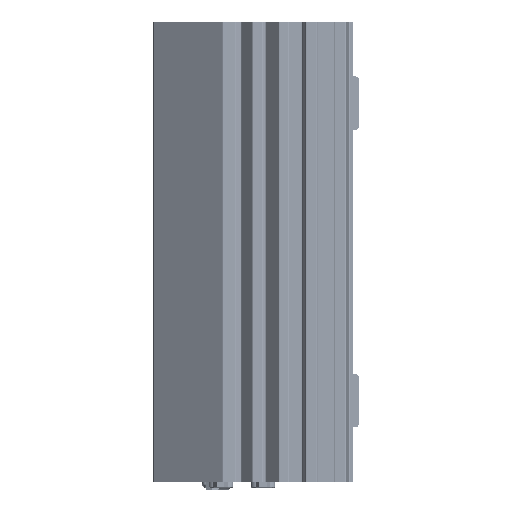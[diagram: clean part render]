
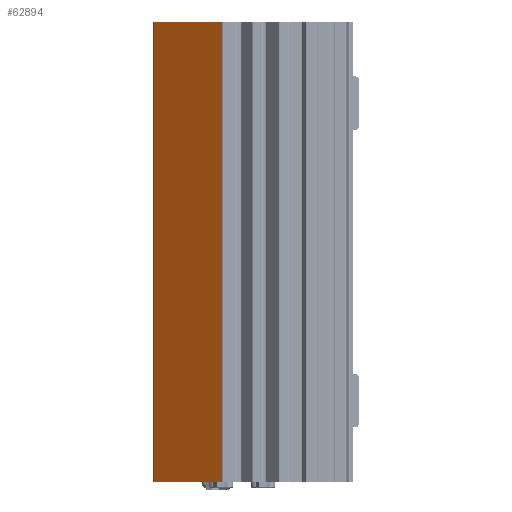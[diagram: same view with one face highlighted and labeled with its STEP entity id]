
A CAD part, left-side view. The second image highlights one B-rep face of the part: STEP entity #62894.
In plain terms, the highlighted planar face has unit normal (-0.819, 0.574, 0).
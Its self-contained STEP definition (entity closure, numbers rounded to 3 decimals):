
#1880 = VERTEX_POINT ( 'NONE', #269045 ) ;
#6868 = CARTESIAN_POINT ( 'NONE',  ( -122.022, 47.53, 86.5 ) ) ;
#7000 = PLANE ( 'NONE',  #371554 ) ;
#8944 = VECTOR ( 'NONE', #57930, 1000. ) ;
#11834 = VERTEX_POINT ( 'NONE', #95372 ) ;
#24402 = EDGE_CURVE ( 'NONE', #11834, #1880, #247808, .T. ) ;
#57930 = DIRECTION ( 'NONE',  ( 0., 0., -1. ) ) ;
#62894 = ADVANCED_FACE ( 'NONE', ( #89593 ), #7000, .F. ) ;
#65105 = VECTOR ( 'NONE', #94759, 1000. ) ;
#65387 = EDGE_CURVE ( 'NONE', #211647, #128582, #214474, .T. ) ;
#72333 = CARTESIAN_POINT ( 'NONE',  ( -102.947, 74.772, -86.5 ) ) ;
#89442 = DIRECTION ( 'NONE',  ( -0.574, -0.819, 0. ) ) ;
#89593 = FACE_OUTER_BOUND ( 'NONE', #208596, .T. ) ;
#90912 = VECTOR ( 'NONE', #262417, 1000. ) ;
#94759 = DIRECTION ( 'NONE',  ( 0., 0., 1. ) ) ;
#95372 = CARTESIAN_POINT ( 'NONE',  ( -102.947, 74.772, 86.5 ) ) ;
#111147 = CARTESIAN_POINT ( 'NONE',  ( -122.022, 47.53, -86.5 ) ) ;
#125033 = ORIENTED_EDGE ( 'NONE', *, *, #132657, .T. ) ;
#128582 = VERTEX_POINT ( 'NONE', #175445 ) ;
#132657 = EDGE_CURVE ( 'NONE', #128582, #1880, #232202, .T. ) ;
#166847 = EDGE_CURVE ( 'NONE', #11834, #211647, #236971, .T. ) ;
#170446 = CARTESIAN_POINT ( 'NONE',  ( -120.999, 48.992, 86.5 ) ) ;
#175445 = CARTESIAN_POINT ( 'NONE',  ( -120.999, 48.992, -86.5 ) ) ;
#196635 = ORIENTED_EDGE ( 'NONE', *, *, #65387, .T. ) ;
#204321 = ORIENTED_EDGE ( 'NONE', *, *, #166847, .T. ) ;
#208596 = EDGE_LOOP ( 'NONE', ( #196635, #125033, #381926, #204321 ) ) ;
#211647 = VERTEX_POINT ( 'NONE', #72333 ) ;
#214474 = LINE ( 'NONE', #111147, #90912 ) ;
#232202 = LINE ( 'NONE', #170446, #65105 ) ;
#236971 = LINE ( 'NONE', #243708, #8944 ) ;
#243708 = CARTESIAN_POINT ( 'NONE',  ( -102.947, 74.772, 86.5 ) ) ;
#247808 = LINE ( 'NONE', #6868, #312596 ) ;
#247939 = CARTESIAN_POINT ( 'NONE',  ( -122.022, 47.53, 86.5 ) ) ;
#262417 = DIRECTION ( 'NONE',  ( -0.574, -0.819, 0. ) ) ;
#269045 = CARTESIAN_POINT ( 'NONE',  ( -120.999, 48.992, 86.5 ) ) ;
#312596 = VECTOR ( 'NONE', #89442, 1000. ) ;
#365120 = DIRECTION ( 'NONE',  ( 0.819, -0.574, 0. ) ) ;
#371554 = AXIS2_PLACEMENT_3D ( 'NONE', #247939, #365120, #371880 ) ;
#371880 = DIRECTION ( 'NONE',  ( 0.574, 0.819, 0. ) ) ;
#381926 = ORIENTED_EDGE ( 'NONE', *, *, #24402, .F. ) ;
